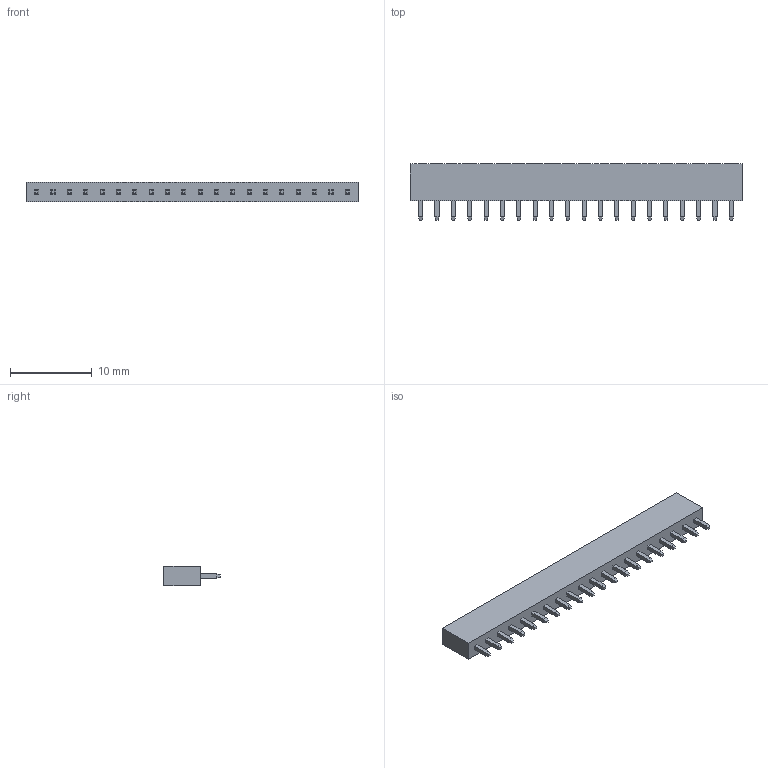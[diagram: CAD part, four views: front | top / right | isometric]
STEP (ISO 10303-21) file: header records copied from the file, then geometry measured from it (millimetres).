
FILE_DESCRIPTION (( 'STEP AP214' ), '1' );
FILE_NAME ('PBS2-20.STEP', '2011-05-17T10:45:44', ( 'vpeshkov' ), ( 'licard' ), 'SwSTEP 2.0', 'SolidWorks 2009', '' );
FILE_SCHEMA (( 'AUTOMOTIVE_DESIGN' ));
Length unit declared in the file: millimetre
Products named in the file (1): PBS2-20
Bounding box: 40.6 x 6.9 x 2.4 mm (x, y, z)
Volume: 394.9 mm3; surface area: 919.3 mm2
Topology: 1 solids, 1 shells, 366 faces, 812 edges, 488 vertices
Faces by surface type: plane 366
Entity records: 11690 total; most frequent: CARTESIAN_POINT 1667, ORIENTED_EDGE 1624, DIRECTION 1546, EDGE_CURVE 812, VECTOR 812, LINE 812, VERTEX_POINT 488, EDGE_LOOP 406
